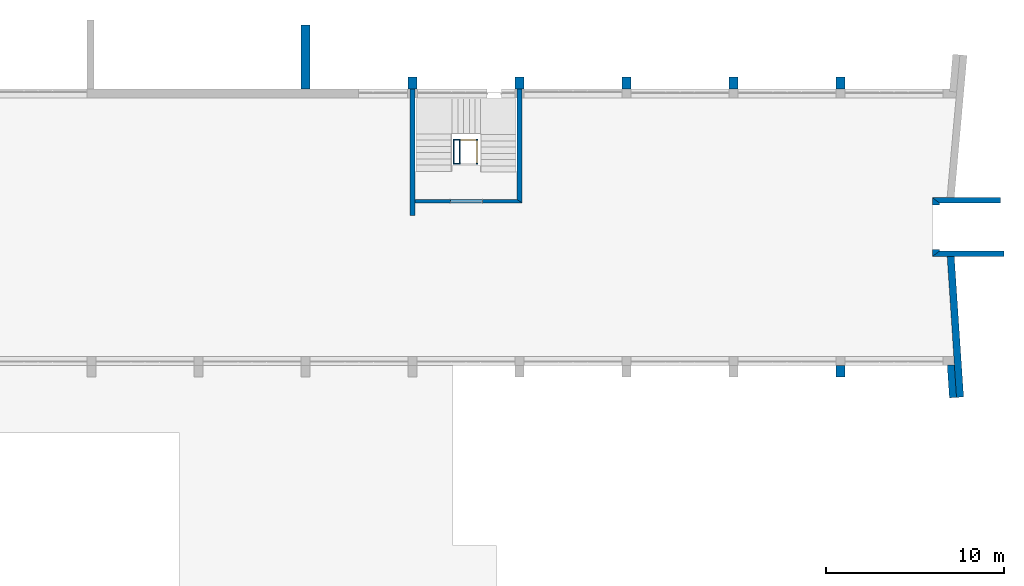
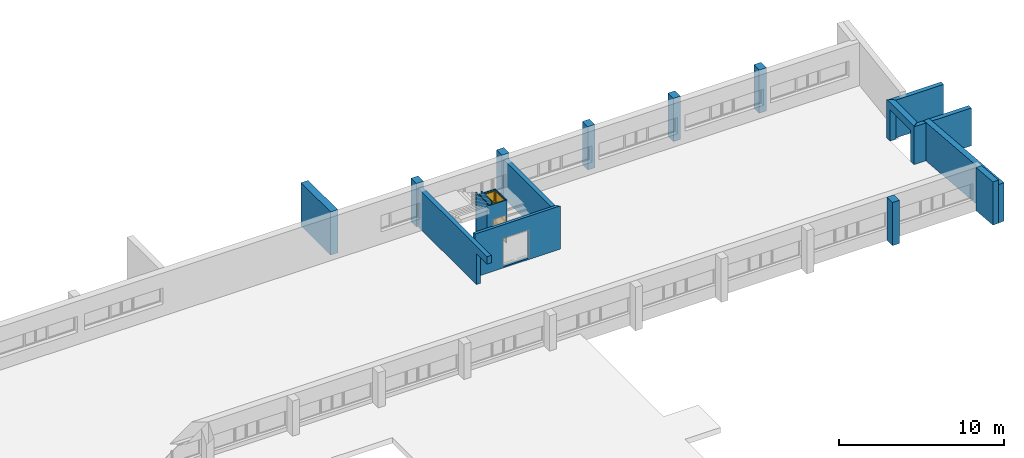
# One storey, part 5 of 10: 20 walls, 2 windows, 7 openings.
"""IFC2X3 building model written with IfcOpenShell, lengths in millimetres."""

from ifc_helpers import new_model, entity, si_unit, converted_unit, money_unit, direction, frame, origin_with_axes, place, context, subcontext, project, spatial, polyline, outline, extrude, open_shell, faceted_brep, surface_model, source, transform, mapped, material, material_list, layer, layer_set, layer_usage, type_object, element, fill, save


model = new_model("IFC2X3")

# Units and contexts
model_context = context("Model", 3, precision=1e-05, world=origin_with_axes(), true_north=direction((0.0, 1.0)))
body_context = subcontext(model_context, "Body", "Model", "MODEL_VIEW")
ifc_project = project(units=[si_unit("LENGTHUNIT", "METRE", prefix="MILLI"), si_unit("AREAUNIT", "SQUARE_METRE"), si_unit("VOLUMEUNIT", "CUBIC_METRE"), converted_unit("PLANEANGLEUNIT", "DEGREE", entity("IfcPlaneAngleMeasure", 0.0174532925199), si_unit("PLANEANGLEUNIT", "RADIAN"), dimensions=[0, 0, 0, 0, 0, 0, 0]), si_unit("SOLIDANGLEUNIT", "STERADIAN"), money_unit("USD"), converted_unit("TIMEUNIT", "Year", entity("IfcTimeMeasure", 31556926.0), si_unit("TIMEUNIT", "SECOND"), dimensions=[0, 0, 0, 0, 0, 0, 0]), si_unit("MASSUNIT", "GRAM"), si_unit("THERMODYNAMICTEMPERATUREUNIT", "DEGREE_CELSIUS"), si_unit("LUMINOUSINTENSITYUNIT", "LUMEN")], contexts=[model_context])

# Site, building, storey
site_placement = place(None, origin_with_axes())
site = spatial("IfcSite", under=ifc_project, at=site_placement, Name="Site", CompositionType="ELEMENT")
building_placement = place(site_placement, origin_with_axes())
building = spatial("IfcBuilding", under=site, at=building_placement, Name="Building", CompositionType="ELEMENT")
storey_placement = place(building_placement, origin_with_axes())
storey = spatial("IfcBuildingStorey", under=building, at=storey_placement, Name="2KORRUS", CompositionType="ELEMENT", Elevation=0.0)

# Wall
ifc_material_1 = material(Name="Olemasolevad seinad tellis, uus viimistlus")
ifc_layer_1 = layer(ifc_material_1, 400.0, ventilated="UNKNOWN")
ifc_layer_set_1 = layer_set([ifc_layer_1], Name="Olemasolevad seinad tellis, uus viimistlus 400")
ifc_layer_usage_1 = layer_usage(ifc_layer_set_1, "AXIS2", "POSITIVE", -400.0)
wall_type_1 = type_object("IfcWallType", Name="Olemasolevad seinad tellis, uus viimistlus 400", PredefinedType="NOTDEFINED")
wall_1_placement = place(storey_placement, frame((18229.2485928, -13787.3375674, 0.0), z_axis=(0.0, 0.0, 1.0), x_axis=(0.0663534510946, -0.997796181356, 0.0)))
element("IfcWallStandardCase", 1, at=wall_1_placement, inside=storey, type_object=wall_type_1, material=ifc_layer_usage_1, Name="vs1", ObjectType="vs1", context=body_context, shape_type="SweptSolid", body=[
    extrude(outline(polyline([(0.0, -400.0), (8146.79169702, -400.0), (8146.79169702, 0.0), (0.0, 0.0), (0.0, -400.0)])), origin_with_axes(), (0.0, 0.0, 1.0), 2850.0),
])

# Wall, opening
ifc_layer_usage_2 = layer_usage(ifc_layer_set_1, "AXIS2", "POSITIVE", 0.0)
wall_2_placement = place(storey_placement, frame((17015.1799697, -11039.6041088, 0.0), z_axis=(0.0, 0.0, 1.0), x_axis=(0.0, -1.0, 0.0)))
wall_2 = element("IfcWallStandardCase", 2, at=wall_2_placement, inside=storey, type_object=wall_type_1, material=ifc_layer_usage_2, Name="ks1", ObjectType="ks1", context=body_context, shape_type="SweptSolid", body=[
    extrude(outline(polyline([(-300.0, 0.0), (2999.6357906, 0.0), (2699.6357906, 400.0), (0.0, 400.0), (-300.0, 0.0)])), origin_with_axes(), (0.0, 0.0, 1.0), 2850.0),
])
opening_1_placement = place(wall_2_placement, frame((1349.63579061, 0.0, 0.0), z_axis=(0.0, 0.0, 1.0), x_axis=(1.0, 0.0, 0.0)))
element("IfcOpeningElement", 3, at=opening_1_placement, cuts=wall_2, Name="DOO - 001", context=body_context, shape_type="SweptSolid", body=[
    extrude(outline(polyline([(-1250.0, 0.0), (-1250.0, -2300.0), (1250.0, -2300.0), (1250.0, 0.0), (-1250.0, 0.0)])), frame((0.0, 300.0, 0.0), z_axis=(0.0, 1.0, 0.0), x_axis=(1.0, 0.0, 0.0)), (0.0, 0.0, 1.0), 400.0),
    extrude(outline(polyline([(-1250.0, 2300.0), (-1250.0, 0.0), (1250.0, 0.0), (1250.0, 2300.0), (-1250.0, 2300.0)])), frame((0.0, 300.0, 0.0), z_axis=(0.0, -1.0, 0.0), x_axis=(1.0, 0.0, 0.0)), (0.0, 0.0, 1.0), 400.0),
])

# Walls
ifc_layer_usage_3 = layer_usage(ifc_layer_set_1, "AXIS2", "POSITIVE", 0.0)
wall_3_placement = place(storey_placement, frame((17849.9226967, -20139.2398994, 0.0), z_axis=(0.0, 0.0, 1.0), x_axis=(0.0663534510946, -0.997796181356, 0.0)))
element("IfcWallStandardCase", 4, at=wall_3_placement, inside=storey, type_object=wall_type_1, material=ifc_layer_usage_3, Name="vs1", ObjectType="vs1", context=body_context, shape_type="SweptSolid", body=[
    extrude(outline(polyline([(0.0, 0.0), (1833.833538, 0.0), (1833.833538, 400.0), (0.0, 400.0), (0.0, 0.0)])), origin_with_axes(), (0.0, 0.0, 1.0), 3200.0),
])
ifc_layer_2 = layer(ifc_material_1, 300.0, ventilated="UNKNOWN")
ifc_layer_set_2 = layer_set([ifc_layer_2], Name="Olemasolevad seinad tellis, uus viimistlus 300")
ifc_layer_usage_4 = layer_usage(ifc_layer_set_2, "AXIS2", "POSITIVE", 0.0)
wall_type_2 = type_object("IfcWallType", Name="Olemasolevad seinad tellis, uus viimistlus 300", PredefinedType="NOTDEFINED")
wall_4_placement = place(storey_placement, frame((21034.0851697, -13739.2398994, 0.0), z_axis=(0.0, 0.0, 1.0), x_axis=(-1.0, 0.0, 0.0)))
element("IfcWallStandardCase", 5, at=wall_4_placement, inside=storey, type_object=wall_type_2, material=ifc_layer_usage_4, Name="ks1", ObjectType="ks1", context=body_context, shape_type="SweptSolid", body=[
    extrude(outline(polyline([(0.0, 0.0), (3618.9052, 0.0), (4018.9052, 300.0), (0.0, 300.0), (0.0, 0.0)])), origin_with_axes(), (0.0, 0.0, 1.0), 2800.0),
])

# Wall, opening
ifc_layer_usage_5 = layer_usage(ifc_layer_set_2, "AXIS2", "POSITIVE", 0.0)
wall_5_placement = place(storey_placement, frame((-11990.2967033, -13039.2398994, 0.0), z_axis=(0.0, 0.0, 1.0), x_axis=(0.0, 1.0, 0.0)))
wall_5 = element("IfcWallStandardCase", 6, at=wall_5_placement, inside=storey, type_object=wall_type_2, material=ifc_layer_usage_5, Name="ks1", ObjectType="ks1", context=body_context, shape_type="SweptSolid", body=[
    extrude(outline(polyline([(0.0, 0.0), (8399.63579061, 0.0), (8399.63579061, 300.0), (0.0, 300.0), (0.0, 0.0)])), origin_with_axes(), (0.0, 0.0, 1.0), 2850.0),
])
opening_2_placement = place(wall_5_placement, frame((650.0, 0.0, 0.0), z_axis=(0.0, 0.0, 1.0), x_axis=(1.0, 0.0, 0.0)))
element("IfcOpeningElement", 7, at=opening_2_placement, cuts=wall_5, Name="DOO - 001", context=body_context, shape_type="SweptSolid", body=[
    extrude(outline(polyline([(-650.0, 2300.0), (-650.0, 0.0), (650.0, 0.0), (650.0, 2300.0), (-650.0, 2300.0)])), frame((0.0, 0.0, 0.0), z_axis=(0.0, -1.0, 0.0), x_axis=(1.0, 0.0, 0.0)), (0.0, 0.0, 1.0), 300.0),
    extrude(outline(polyline([(-650.0, 0.0), (-650.0, -2300.0), (650.0, -2300.0), (650.0, 0.0), (-650.0, 0.0)])), frame((0.0, 0.0, 0.0), z_axis=(0.0, 1.0, 0.0), x_axis=(1.0, 0.0, 0.0)), (0.0, 0.0, 1.0), 300.0),
])

# Walls
ifc_layer_usage_6 = layer_usage(ifc_layer_set_2, "AXIS2", "POSITIVE", 0.0)
wall_6_placement = place(storey_placement, frame((-5990.29670331, -11039.6041088, 0.0), z_axis=(0.0, 0.0, 1.0), x_axis=(0.0, 1.0, 0.0)))
element("IfcWallStandardCase", 8, at=wall_6_placement, inside=storey, type_object=wall_type_2, material=ifc_layer_usage_6, Name="ks1", ObjectType="ks1", context=body_context, shape_type="SweptSolid", body=[
    extrude(outline(polyline([(0.0, 0.0), (6400.0, 0.0), (6400.0, 300.0), (200.0, 300.0), (0.0, 0.0)])), origin_with_axes(), (0.0, 0.0, 1.0), 2850.0),
])
ifc_layer_usage_7 = layer_usage(ifc_layer_set_2, "AXIS2", "POSITIVE", -300.0)
wall_7_placement = place(storey_placement, frame((20826.9209515, -11039.6041088, 0.0), z_axis=(0.0, 0.0, 1.0), x_axis=(-1.0, 0.0, 0.0)))
element("IfcWallStandardCase", 9, at=wall_7_placement, inside=storey, type_object=wall_type_2, material=ifc_layer_usage_7, Name="ks1", ObjectType="ks1", context=body_context, shape_type="SweptSolid", body=[
    extrude(outline(polyline([(0.0, -300.0), (3811.7409818, -300.0), (3411.7409818, 0.0), (0.0, 0.0), (0.0, -300.0)])), origin_with_axes(), (0.0, 0.0, 1.0), 2800.0),
])
ifc_layer_3 = layer(ifc_material_1, 500.0, ventilated="UNKNOWN")
ifc_layer_set_3 = layer_set([ifc_layer_3], Name="Olemasolevad seinad tellis, uus viimistlus 500")
ifc_layer_usage_8 = layer_usage(ifc_layer_set_3, "AXIS2", "POSITIVE", -100.0)
wall_type_3 = type_object("IfcWallType", Name="Olemasolevad seinad tellis, uus viimistlus 500", PredefinedType="NOTDEFINED")
wall_8_placement = place(storey_placement, frame((12009.7032967, -20796.6419407, 0.0), z_axis=(0.0, 0.0, 1.0), x_axis=(0.0, 1.0, 0.0)))
element("IfcWallStandardCase", 10, at=wall_8_placement, inside=storey, type_object=wall_type_3, material=ifc_layer_usage_8, Name="vs1", ObjectType="vs1", context=body_context, shape_type="SweptSolid", body=[
    extrude(outline(polyline([(0.0, -100.0), (657.4020413, -100.0), (657.4020413, 400.0), (0.0, 400.0), (0.0, -100.0)])), origin_with_axes(), (0.0, 0.0, 1.0), 3200.0),
])
ifc_layer_usage_9 = layer_usage(ifc_layer_set_3, "AXIS2", "POSITIVE", -100.0)
wall_9_placement = place(storey_placement, frame((12009.7032967, -5039.6041088, 0.0), z_axis=(0.0, 0.0, 1.0), x_axis=(0.0, 1.0, 0.0)))
element("IfcWallStandardCase", 11, at=wall_9_placement, inside=storey, type_object=wall_type_3, material=ifc_layer_usage_9, Name="vs1", ObjectType="vs1", context=body_context, shape_type="SweptSolid", body=[
    extrude(outline(polyline([(400.0, -100.0), (1057.40204125, -100.0), (1057.40204125, 400.0), (400.0, 400.0), (400.0, -100.0)])), origin_with_axes(), (0.0, 0.0, 1.0), 3200.0),
])
ifc_layer_usage_10 = layer_usage(ifc_layer_set_3, "AXIS2", "POSITIVE", 0.0)
wall_10_placement = place(storey_placement, frame((-17890.2967033, -5039.6041088, 0.0), z_axis=(0.0, 0.0, 1.0), x_axis=(0.0, 1.0, 0.0)))
element("IfcWallStandardCase", 12, at=wall_10_placement, inside=storey, type_object=wall_type_3, material=ifc_layer_usage_10, Name="vs1", ObjectType="vs1", context=body_context, shape_type="SweptSolid", body=[
    extrude(outline(polyline([(400.0, 0.0), (3973.10270624, 0.0), (3973.10270624, 500.0), (400.0, 500.0), (400.0, 0.0)])), origin_with_axes(), (0.0, 0.0, 1.0), 3200.0),
])
ifc_layer_usage_11 = layer_usage(ifc_layer_set_3, "AXIS2", "POSITIVE", -100.0)
wall_11_placement = place(storey_placement, frame((-11990.2967033, -5039.6041088, 0.0), z_axis=(0.0, 0.0, 1.0), x_axis=(0.0, 1.0, 0.0)))
element("IfcWallStandardCase", 13, at=wall_11_placement, inside=storey, type_object=wall_type_3, material=ifc_layer_usage_11, Name="vs1", ObjectType="vs1", context=body_context, shape_type="SweptSolid", body=[
    extrude(outline(polyline([(400.0, -100.0), (1057.40204125, -100.0), (1057.40204125, 400.0), (400.0, 400.0), (400.0, -100.0)])), origin_with_axes(), (0.0, 0.0, 1.0), 3200.0),
])
ifc_layer_usage_12 = layer_usage(ifc_layer_set_3, "AXIS2", "POSITIVE", -100.0)
wall_12_placement = place(storey_placement, frame((-5990.29670331, -5039.6041088, 0.0), z_axis=(0.0, 0.0, 1.0), x_axis=(0.0, 1.0, 0.0)))
element("IfcWallStandardCase", 14, at=wall_12_placement, inside=storey, type_object=wall_type_3, material=ifc_layer_usage_12, Name="vs1", ObjectType="vs1", context=body_context, shape_type="SweptSolid", body=[
    extrude(outline(polyline([(400.0, -100.0), (1057.40204125, -100.0), (1057.40204125, 400.0), (400.0, 400.0), (400.0, -100.0)])), origin_with_axes(), (0.0, 0.0, 1.0), 3200.0),
])
ifc_layer_usage_13 = layer_usage(ifc_layer_set_3, "AXIS2", "POSITIVE", -100.0)
wall_13_placement = place(storey_placement, frame((9.70329668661, -5039.6041088, 0.0), z_axis=(0.0, 0.0, 1.0), x_axis=(0.0, 1.0, 0.0)))
element("IfcWallStandardCase", 15, at=wall_13_placement, inside=storey, type_object=wall_type_3, material=ifc_layer_usage_13, Name="vs1", ObjectType="vs1", context=body_context, shape_type="SweptSolid", body=[
    extrude(outline(polyline([(400.0, -100.0), (1057.40204125, -100.0), (1057.40204125, 400.0), (400.0, 400.0), (400.0, -100.0)])), origin_with_axes(), (0.0, 0.0, 1.0), 3200.0),
])
ifc_layer_usage_14 = layer_usage(ifc_layer_set_3, "AXIS2", "POSITIVE", -100.0)
wall_14_placement = place(storey_placement, frame((6009.70329669, -5039.6041088, 0.0), z_axis=(0.0, 0.0, 1.0), x_axis=(0.0, 1.0, 0.0)))
element("IfcWallStandardCase", 16, at=wall_14_placement, inside=storey, type_object=wall_type_3, material=ifc_layer_usage_14, Name="vs1", ObjectType="vs1", context=body_context, shape_type="SweptSolid", body=[
    extrude(outline(polyline([(400.0, -100.0), (1057.40204125, -100.0), (1057.40204125, 400.0), (400.0, 400.0), (400.0, -100.0)])), origin_with_axes(), (0.0, 0.0, 1.0), 3200.0),
])
ifc_material_2 = material(Name="Terasprofiil")
ifc_layer_4 = layer(ifc_material_2, 60.0, ventilated="UNKNOWN")
ifc_layer_set_4 = layer_set([ifc_layer_4], Name="Terasprofiil 60")
ifc_layer_usage_15 = layer_usage(ifc_layer_set_4, "AXIS2", "POSITIVE", -60.0)
wall_type_4 = type_object("IfcWallType", Name="Terasprofiil 60", PredefinedType="NOTDEFINED")
wall_15_placement = place(storey_placement, frame((-9469.40654634, -7470.64352695, 0.0), z_axis=(0.0, 0.0, 1.0), x_axis=(0.0, -1.0, 0.0)))
element("IfcWallStandardCase", 17, at=wall_15_placement, inside=storey, type_object=wall_type_4, material=ifc_layer_usage_15, Name="Lifti sein", ObjectType="Lifti sein", context=body_context, shape_type="SweptSolid", body=[
    extrude(outline(polyline([(60.0, -60.0), (1340.0, -60.0), (1340.0, 0.0), (60.0, 0.0), (60.0, -60.0)])), origin_with_axes(), (0.0, 0.0, 1.0), 3400.0),
])

# Wall, opening, window
ifc_layer_usage_16 = layer_usage(ifc_layer_set_4, "AXIS2", "POSITIVE", -60.0)
wall_16_placement = place(storey_placement, frame((-8491.93119318, -7470.64352695, 0.0), z_axis=(0.0, 0.0, 1.0), x_axis=(0.0, -1.0, 0.0)))
wall_16 = element("IfcWallStandardCase", 18, at=wall_16_placement, inside=storey, type_object=wall_type_4, material=ifc_layer_usage_16, Name="LS1", ObjectType="Lifti sein", context=body_context, shape_type="SweptSolid", body=[
    extrude(outline(polyline([(0.0, -60.0), (1400.0, -60.0), (1400.0, 0.0), (0.0, 0.0), (0.0, -60.0)])), origin_with_axes(), (0.0, 0.0, 1.0), 3200.0),
])
opening_3_placement = place(wall_16_placement, frame((700.0, 0.0, 0.0), z_axis=(0.0, 0.0, 1.0), x_axis=(1.0, 0.0, 0.0)))
opening_3 = element("IfcOpeningElement", 19, at=opening_3_placement, cuts=wall_16, Name="Lifti klaassein", context=body_context, shape_type="SweptSolid", body=[
    extrude(outline(polyline([(640.0, -3100.0), (640.0, 0.0), (-640.0, 0.0), (-640.0, -3100.0), (640.0, -3100.0)])), frame((0.0, -60.0, 0.0), z_axis=(0.0, 1.0, 0.0), x_axis=(1.0, 0.0, 0.0)), (0.0, 0.0, 1.0), 180.0),
])
ifc_material_3 = material(Name="Background")
ifc_material_list = material_list([ifc_material_3])
window_style = type_object("IfcWindowStyle", Name="Vertical Multi-Sash Window 19", ConstructionType="NOTDEFINED", OperationType="USERDEFINED", ParameterTakesPrecedence=False, Sizeable=False)
shared_shape_1 = source(origin_with_axes(), body_context, "Body", "SurfaceModel", [
    faceted_brep([(590.0, -50.0, 3050.0), (640.0, -50.0, 3050.0), (640.0, 0.0, 3050.0), (590.0, 0.0, 3050.0), (590.0, -50.0, 2375.0), (590.0, -50.0, 2275.0), (590.0, -50.0, 1600.0), (590.0, -50.0, 1500.0), (590.0, -50.0, 825.0), (590.0, -50.0, 725.0), (590.0, -50.0, 50.0), (640.0, -50.0, 50.0), (640.0, 0.0, 50.0), (590.0, 0.0, 50.0), (590.0, 0.0, 725.0), (590.0, 0.0, 825.0), (590.0, 0.0, 1500.0), (590.0, 0.0, 1600.0), (590.0, 0.0, 2275.0), (590.0, 0.0, 2375.0)], [[[0, 1, 2, 3]], [[0, 4, 5, 6, 7, 8, 9, 10, 11, 1]], [[1, 11, 12, 2]], [[3, 2, 12, 13, 14, 15, 16, 17, 18, 19]], [[4, 0, 3, 19]], [[5, 4, 19, 18]], [[6, 5, 18, 17]], [[7, 6, 17, 16]], [[8, 7, 16, 15]], [[9, 8, 15, 14]], [[10, 9, 14, 13]], [[11, 10, 13, 12]]]),
    faceted_brep([(-590.0, -50.0, 2375.0), (-590.0, -50.0, 2275.0), (-590.0, 0.0, 2275.0), (-590.0, 0.0, 2375.0), (-590.0, -50.0, 3050.0), (-640.0, -50.0, 3050.0), (-640.0, -50.0, 50.0), (-590.0, -50.0, 50.0), (-590.0, -50.0, 725.0), (-590.0, -50.0, 825.0), (-590.0, -50.0, 1500.0), (-590.0, -50.0, 1600.0), (-590.0, 0.0, 1600.0), (-590.0, 0.0, 1500.0), (-590.0, 0.0, 825.0), (-590.0, 0.0, 725.0), (-590.0, 0.0, 50.0), (-640.0, 0.0, 50.0), (-640.0, 0.0, 3050.0), (-590.0, 0.0, 3050.0)], [[[0, 1, 2, 3]], [[0, 4, 5, 6, 7, 8, 9, 10, 11, 1]], [[1, 11, 12, 2]], [[3, 2, 12, 13, 14, 15, 16, 17, 18, 19]], [[4, 0, 3, 19]], [[5, 4, 19, 18]], [[6, 5, 18, 17]], [[7, 6, 17, 16]], [[8, 7, 16, 15]], [[9, 8, 15, 14]], [[10, 9, 14, 13]], [[11, 10, 13, 12]]]),
    faceted_brep([(-590.0, -50.0, 3050.0), (-640.0, -50.0, 3050.0), (-640.0, 0.0, 3050.0), (-590.0, 0.0, 3050.0), (590.0, -50.0, 3050.0), (640.0, -50.0, 3050.0), (640.0, -50.0, 3100.0), (-640.0, -50.0, 3100.0), (-640.0, 0.0, 3100.0), (640.0, 0.0, 3100.0), (640.0, 0.0, 3050.0), (590.0, 0.0, 3050.0)], [[[0, 1, 2, 3]], [[0, 4, 5, 6, 7, 1]], [[1, 7, 8, 2]], [[3, 2, 8, 9, 10, 11]], [[4, 0, 3, 11]], [[5, 4, 11, 10]], [[6, 5, 10, 9]], [[7, 6, 9, 8]]]),
    faceted_brep([(590.0, -50.0, 50.0), (640.0, -50.0, 50.0), (640.0, 0.0, 50.0), (590.0, 0.0, 50.0), (-590.0, -50.0, 50.0), (-640.0, -50.0, 50.0), (-640.0, -50.0, 0.0), (640.0, -50.0, 0.0), (640.0, 0.0, 0.0), (-640.0, 0.0, 0.0), (-640.0, 0.0, 50.0), (-590.0, 0.0, 50.0)], [[[0, 1, 2, 3]], [[0, 4, 5, 6, 7, 1]], [[1, 7, 8, 2]], [[3, 2, 8, 9, 10, 11]], [[4, 0, 3, 11]], [[5, 4, 11, 10]], [[6, 5, 10, 9]], [[7, 6, 9, 8]]]),
    faceted_brep([(-590.0, -50.0, 825.0), (590.0, -50.0, 825.0), (590.0, 0.0, 825.0), (-590.0, 0.0, 825.0), (-590.0, -50.0, 725.0), (590.0, -50.0, 725.0), (590.0, 0.0, 725.0), (-590.0, 0.0, 725.0)], [[[0, 1, 2, 3]], [[0, 4, 5, 1]], [[1, 5, 6, 2]], [[3, 2, 6, 7]], [[4, 0, 3, 7]], [[5, 4, 7, 6]]]),
    faceted_brep([(-590.0, -50.0, 1600.0), (590.0, -50.0, 1600.0), (590.0, 0.0, 1600.0), (-590.0, 0.0, 1600.0), (-590.0, -50.0, 1500.0), (590.0, -50.0, 1500.0), (590.0, 0.0, 1500.0), (-590.0, 0.0, 1500.0)], [[[0, 1, 2, 3]], [[0, 4, 5, 1]], [[1, 5, 6, 2]], [[3, 2, 6, 7]], [[4, 0, 3, 7]], [[5, 4, 7, 6]]]),
    faceted_brep([(-590.0, -50.0, 2375.0), (590.0, -50.0, 2375.0), (590.0, 0.0, 2375.0), (-590.0, 0.0, 2375.0), (-590.0, -50.0, 2275.0), (590.0, -50.0, 2275.0), (590.0, 0.0, 2275.0), (-590.0, 0.0, 2275.0)], [[[0, 1, 2, 3]], [[0, 4, 5, 1]], [[1, 5, 6, 2]], [[3, 2, 6, 7]], [[4, 0, 3, 7]], [[5, 4, 7, 6]]]),
    surface_model("IfcShellBasedSurfaceModel", [(590.0, -35.0, 50.0), (590.0, -35.0, 725.0), (-590.0, -35.0, 725.0), (-590.0, -35.0, 50.0)], [open_shell([[[0, 1, 2, 3]]])]),
    surface_model("IfcShellBasedSurfaceModel", [(590.0, -15.0, 50.0), (-590.0, -15.0, 50.0), (-590.0, -15.0, 725.0), (590.0, -15.0, 725.0)], [open_shell([[[0, 1, 2, 3]]])]),
    surface_model("IfcShellBasedSurfaceModel", [(590.0, -35.0, 825.0), (590.0, -35.0, 1500.0), (-590.0, -35.0, 1500.0), (-590.0, -35.0, 825.0)], [open_shell([[[0, 1, 2, 3]]])]),
    surface_model("IfcShellBasedSurfaceModel", [(590.0, -15.0, 825.0), (-590.0, -15.0, 825.0), (-590.0, -15.0, 1500.0), (590.0, -15.0, 1500.0)], [open_shell([[[0, 1, 2, 3]]])]),
    surface_model("IfcShellBasedSurfaceModel", [(590.0, -35.0, 1600.0), (590.0, -35.0, 2275.0), (-590.0, -35.0, 2275.0), (-590.0, -35.0, 1600.0)], [open_shell([[[0, 1, 2, 3]]])]),
    surface_model("IfcShellBasedSurfaceModel", [(590.0, -15.0, 1600.0), (-590.0, -15.0, 1600.0), (-590.0, -15.0, 2275.0), (590.0, -15.0, 2275.0)], [open_shell([[[0, 1, 2, 3]]])]),
    surface_model("IfcShellBasedSurfaceModel", [(590.0, -35.0, 2375.0), (590.0, -35.0, 3050.0), (-590.0, -35.0, 3050.0), (-590.0, -35.0, 2375.0)], [open_shell([[[0, 1, 2, 3]]])]),
    surface_model("IfcShellBasedSurfaceModel", [(590.0, -15.0, 2375.0), (-590.0, -15.0, 2375.0), (-590.0, -15.0, 3050.0), (590.0, -15.0, 3050.0)], [open_shell([[[0, 1, 2, 3]]])]),
])
window_1_placement = place(opening_3_placement, frame((-640.0, 0.0, 0.0), z_axis=(0.0, 0.0, 1.0), x_axis=(1.0, 0.0, 0.0)))
window_1 = element("IfcWindow", 20, at=window_1_placement, inside=storey, type_object=window_style, material=ifc_material_list, Name="Lifti klaassein", ObjectType="WINDOW", OverallHeight=3100.0, OverallWidth=1280.0, context=body_context, shape_type="MappedRepresentation", body=[
    mapped(shared_shape_1, transform((640.0, 0.0, 0.0))),
])
fill(opening_3, window_1)

# Wall
ifc_layer_usage_17 = layer_usage(ifc_layer_set_4, "AXIS2", "POSITIVE", 0.0)
wall_17_placement = place(storey_placement, frame((-9869.40654634, -7470.64352695, 0.0), z_axis=(0.0, 0.0, 1.0), x_axis=(0.0, -1.0, 0.0)))
element("IfcWallStandardCase", 21, at=wall_17_placement, inside=storey, type_object=wall_type_4, material=ifc_layer_usage_17, Name="Lifti sein", ObjectType="Lifti sein", context=body_context, shape_type="SweptSolid", body=[
    extrude(outline(polyline([(0.0, 0.0), (1400.0, 0.0), (1400.0, 60.0), (0.0, 60.0), (0.0, 0.0)])), origin_with_axes(), (0.0, 0.0, 1.0), 3400.0),
])

# Wall, opening
ifc_layer_usage_18 = layer_usage(ifc_layer_set_4, "AXIS2", "POSITIVE", -60.0)
wall_18_placement = place(storey_placement, frame((-8491.93119318, -8870.64352695, 0.0), z_axis=(0.0, 0.0, 1.0), x_axis=(-1.0, 0.0, 0.0)))
wall_18 = element("IfcWallStandardCase", 22, at=wall_18_placement, inside=storey, type_object=wall_type_4, material=ifc_layer_usage_18, Name="LS1", ObjectType="Lifti sein", context=body_context, shape_type="SweptSolid", body=[
    extrude(outline(polyline([(0.0, -60.0), (1377.47535316, -60.0), (1377.47535316, 0.0), (0.0, 0.0), (0.0, -60.0)])), origin_with_axes(), (0.0, 0.0, 1.0), 3200.0),
])
opening_4_placement = place(wall_18_placement, frame((512.692164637, 0.0, 0.0), z_axis=(0.0, 0.0, 1.0), x_axis=(1.0, 0.0, 0.0)))
element("IfcOpeningElement", 23, at=opening_4_placement, cuts=wall_18, Name="Liftiuks", context=body_context, shape_type="SweptSolid", body=[
    extrude(outline(polyline([(-450.0, -2100.0), (450.0, -2100.0), (450.0, 0.0), (-450.0, 0.0), (-450.0, -2100.0)])), frame((0.0, -60.0, 0.0), z_axis=(0.0, 1.0, 0.0), x_axis=(1.0, 0.0, 0.0)), (0.0, 0.0, 1.0), 180.0),
    extrude(outline(polyline([(-487.0, 2137.0), (-487.0, 0.0), (487.0, 0.0), (487.0, 2137.0), (-487.0, 2137.0)])), frame((0.0, -60.0, 0.0), z_axis=(0.0, -1.0, 0.0), x_axis=(1.0, 0.0, 0.0)), (0.0, 0.0, 1.0), 60.0),
    extrude(outline(polyline([(-487.0, 0.0), (-487.0, -2137.0), (487.0, -2137.0), (487.0, 0.0), (-487.0, 0.0)])), frame((0.0, 0.0, 0.0), z_axis=(0.0, 1.0, 0.0), x_axis=(1.0, 0.0, 0.0)), (0.0, 0.0, 1.0), 60.0),
])

# Wall, opening, window
ifc_layer_usage_19 = layer_usage(ifc_layer_set_4, "AXIS2", "POSITIVE", 0.0)
wall_19_placement = place(storey_placement, frame((-8491.93119318, -7470.64352695, 0.0), z_axis=(0.0, 0.0, 1.0), x_axis=(-1.0, 0.0, 0.0)))
wall_19 = element("IfcWallStandardCase", 24, at=wall_19_placement, inside=storey, type_object=wall_type_4, material=ifc_layer_usage_19, Name="LS1", ObjectType="Lifti sein", context=body_context, shape_type="SweptSolid", body=[
    extrude(outline(polyline([(0.0, 0.0), (1377.47535316, 0.0), (1377.47535316, 60.0), (0.0, 60.0), (0.0, 0.0)])), origin_with_axes(), (0.0, 0.0, 1.0), 3200.0),
])
opening_5_placement = place(wall_19_placement, frame((518.737676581, 0.0, 0.0), z_axis=(0.0, 0.0, 1.0), x_axis=(1.0, 0.0, 0.0)))
opening_5 = element("IfcOpeningElement", 25, at=opening_5_placement, cuts=wall_19, Name="Lifti klaassein", context=body_context, shape_type="SweptSolid", body=[
    extrude(outline(polyline([(-450.0, 0.0), (450.0, 0.0), (450.0, 3100.0), (-450.0, 3100.0), (-450.0, 0.0)])), frame((0.0, -60.0, 0.0), z_axis=(0.0, 1.0, 0.0), x_axis=(-1.0, 0.0, 0.0)), (0.0, 0.0, 1.0), 180.0),
])
shared_shape_2 = source(origin_with_axes(), body_context, "Body", "SurfaceModel", [
    faceted_brep([(-400.0, -60.0, 3050.0), (-400.0, -10.0, 3050.0), (-450.0, -10.0, 3050.0), (-450.0, -60.0, 3050.0), (-400.0, -60.0, 2375.0), (-400.0, -10.0, 2375.0), (-400.0, -10.0, 2275.0), (-400.0, -10.0, 1600.0), (-400.0, -10.0, 1500.0), (-400.0, -10.0, 825.0), (-400.0, -10.0, 725.0), (-400.0, -10.0, 50.0), (-450.0, -10.0, 50.0), (-450.0, -60.0, 50.0), (-400.0, -60.0, 50.0), (-400.0, -60.0, 725.0), (-400.0, -60.0, 825.0), (-400.0, -60.0, 1500.0), (-400.0, -60.0, 1600.0), (-400.0, -60.0, 2275.0)], [[[0, 1, 2, 3]], [[4, 5, 1, 0]], [[1, 5, 6, 7, 8, 9, 10, 11, 12, 2]], [[3, 2, 12, 13]], [[0, 3, 13, 14, 15, 16, 17, 18, 19, 4]], [[19, 6, 5, 4]], [[18, 7, 6, 19]], [[17, 8, 7, 18]], [[16, 9, 8, 17]], [[15, 10, 9, 16]], [[14, 11, 10, 15]], [[13, 12, 11, 14]]]),
    faceted_brep([(400.0, -60.0, 2375.0), (400.0, -10.0, 2375.0), (400.0, -10.0, 2275.0), (400.0, -60.0, 2275.0), (400.0, -60.0, 3050.0), (400.0, -10.0, 3050.0), (450.0, -10.0, 3050.0), (450.0, -10.0, 50.0), (400.0, -10.0, 50.0), (400.0, -10.0, 725.0), (400.0, -10.0, 825.0), (400.0, -10.0, 1500.0), (400.0, -10.0, 1600.0), (400.0, -60.0, 1600.0), (400.0, -60.0, 1500.0), (400.0, -60.0, 825.0), (400.0, -60.0, 725.0), (400.0, -60.0, 50.0), (450.0, -60.0, 50.0), (450.0, -60.0, 3050.0)], [[[0, 1, 2, 3]], [[4, 5, 1, 0]], [[1, 5, 6, 7, 8, 9, 10, 11, 12, 2]], [[3, 2, 12, 13]], [[0, 3, 13, 14, 15, 16, 17, 18, 19, 4]], [[19, 6, 5, 4]], [[18, 7, 6, 19]], [[17, 8, 7, 18]], [[16, 9, 8, 17]], [[15, 10, 9, 16]], [[14, 11, 10, 15]], [[13, 12, 11, 14]]]),
    faceted_brep([(400.0, -60.0, 3050.0), (400.0, -10.0, 3050.0), (450.0, -10.0, 3050.0), (450.0, -60.0, 3050.0), (-400.0, -60.0, 3050.0), (-400.0, -10.0, 3050.0), (-450.0, -10.0, 3050.0), (-450.0, -10.0, 3100.0), (450.0, -10.0, 3100.0), (450.0, -60.0, 3100.0), (-450.0, -60.0, 3100.0), (-450.0, -60.0, 3050.0)], [[[0, 1, 2, 3]], [[4, 5, 1, 0]], [[1, 5, 6, 7, 8, 2]], [[3, 2, 8, 9]], [[0, 3, 9, 10, 11, 4]], [[11, 6, 5, 4]], [[10, 7, 6, 11]], [[9, 8, 7, 10]]]),
    faceted_brep([(-400.0, -60.0, 50.0), (-400.0, -10.0, 50.0), (-450.0, -10.0, 50.0), (-450.0, -60.0, 50.0), (400.0, -60.0, 50.0), (400.0, -10.0, 50.0), (450.0, -10.0, 50.0), (450.0, -10.0, 0.0), (-450.0, -10.0, 0.0), (-450.0, -60.0, 0.0), (450.0, -60.0, 0.0), (450.0, -60.0, 50.0)], [[[0, 1, 2, 3]], [[4, 5, 1, 0]], [[1, 5, 6, 7, 8, 2]], [[3, 2, 8, 9]], [[0, 3, 9, 10, 11, 4]], [[11, 6, 5, 4]], [[10, 7, 6, 11]], [[9, 8, 7, 10]]]),
    faceted_brep([(400.0, -60.0, 825.0), (400.0, -10.0, 825.0), (-400.0, -10.0, 825.0), (-400.0, -60.0, 825.0), (400.0, -60.0, 725.0), (400.0, -10.0, 725.0), (-400.0, -10.0, 725.0), (-400.0, -60.0, 725.0)], [[[0, 1, 2, 3]], [[4, 5, 1, 0]], [[1, 5, 6, 2]], [[3, 2, 6, 7]], [[0, 3, 7, 4]], [[7, 6, 5, 4]]]),
    faceted_brep([(400.0, -60.0, 1600.0), (400.0, -10.0, 1600.0), (-400.0, -10.0, 1600.0), (-400.0, -60.0, 1600.0), (400.0, -60.0, 1500.0), (400.0, -10.0, 1500.0), (-400.0, -10.0, 1500.0), (-400.0, -60.0, 1500.0)], [[[0, 1, 2, 3]], [[4, 5, 1, 0]], [[1, 5, 6, 2]], [[3, 2, 6, 7]], [[0, 3, 7, 4]], [[7, 6, 5, 4]]]),
    faceted_brep([(400.0, -60.0, 2375.0), (400.0, -10.0, 2375.0), (-400.0, -10.0, 2375.0), (-400.0, -60.0, 2375.0), (400.0, -60.0, 2275.0), (400.0, -10.0, 2275.0), (-400.0, -10.0, 2275.0), (-400.0, -60.0, 2275.0)], [[[0, 1, 2, 3]], [[4, 5, 1, 0]], [[1, 5, 6, 2]], [[3, 2, 6, 7]], [[0, 3, 7, 4]], [[7, 6, 5, 4]]]),
    surface_model("IfcShellBasedSurfaceModel", [(-400.0, -45.0, 50.0), (400.0, -45.0, 50.0), (400.0, -45.0, 725.0), (-400.0, -45.0, 725.0)], [open_shell([[[0, 1, 2, 3]]])]),
    surface_model("IfcShellBasedSurfaceModel", [(-400.0, -25.0, 50.0), (-400.0, -25.0, 725.0), (400.0, -25.0, 725.0), (400.0, -25.0, 50.0)], [open_shell([[[0, 1, 2, 3]]])]),
    surface_model("IfcShellBasedSurfaceModel", [(-400.0, -45.0, 825.0), (400.0, -45.0, 825.0), (400.0, -45.0, 1500.0), (-400.0, -45.0, 1500.0)], [open_shell([[[0, 1, 2, 3]]])]),
    surface_model("IfcShellBasedSurfaceModel", [(-400.0, -25.0, 825.0), (-400.0, -25.0, 1500.0), (400.0, -25.0, 1500.0), (400.0, -25.0, 825.0)], [open_shell([[[0, 1, 2, 3]]])]),
    surface_model("IfcShellBasedSurfaceModel", [(-400.0, -45.0, 1600.0), (400.0, -45.0, 1600.0), (400.0, -45.0, 2275.0), (-400.0, -45.0, 2275.0)], [open_shell([[[0, 1, 2, 3]]])]),
    surface_model("IfcShellBasedSurfaceModel", [(-400.0, -25.0, 1600.0), (-400.0, -25.0, 2275.0), (400.0, -25.0, 2275.0), (400.0, -25.0, 1600.0)], [open_shell([[[0, 1, 2, 3]]])]),
    surface_model("IfcShellBasedSurfaceModel", [(-400.0, -45.0, 2375.0), (400.0, -45.0, 2375.0), (400.0, -45.0, 3050.0), (-400.0, -45.0, 3050.0)], [open_shell([[[0, 1, 2, 3]]])]),
    surface_model("IfcShellBasedSurfaceModel", [(-400.0, -25.0, 2375.0), (-400.0, -25.0, 3050.0), (400.0, -25.0, 3050.0), (400.0, -25.0, 2375.0)], [open_shell([[[0, 1, 2, 3]]])]),
])
window_2_placement = place(opening_5_placement, frame((450.0, 0.0, 0.0), z_axis=(0.0, 0.0, 1.0), x_axis=(-1.0, 0.0, 0.0)))
window_2 = element("IfcWindow", 26, at=window_2_placement, inside=storey, type_object=window_style, material=ifc_material_list, Name="Lifti klaassein", ObjectType="WINDOW", OverallHeight=3100.0, OverallWidth=900.0, context=body_context, shape_type="MappedRepresentation", body=[
    mapped(shared_shape_2, transform((450.0, 0.0, 0.0))),
])
fill(opening_5, window_2)

# Wall, openings
ifc_layer_5 = layer(ifc_material_1, 200.0, ventilated="UNKNOWN")
ifc_layer_set_5 = layer_set([ifc_layer_5], Name="Olemasolevad seinad tellis, uus viimistlus 200")
ifc_layer_usage_20 = layer_usage(ifc_layer_set_5, "AXIS2", "POSITIVE", -200.0)
wall_type_5 = type_object("IfcWallType", Name="Olemasolevad seinad tellis, uus viimistlus 200", PredefinedType="NOTDEFINED")
wall_20_placement = place(storey_placement, frame((-5990.29670331, -11039.6041088, 0.0), z_axis=(0.0, 0.0, 1.0), x_axis=(-1.0, 0.0, 0.0)))
wall_20 = element("IfcWallStandardCase", 27, at=wall_20_placement, inside=storey, type_object=wall_type_5, material=ifc_layer_usage_20, Name="ks1", ObjectType="ks1", context=body_context, shape_type="SweptSolid", body=[
    extrude(outline(polyline([(300.0, -200.0), (5999.99999999, -200.0), (5999.99999999, 0.0), (0.0, 0.0), (300.0, -200.0)])), origin_with_axes(), (0.0, 0.0, 1.0), 3200.0),
])
opening_6_placement = place(wall_20_placement, frame((3133.31707985, 0.0, 100.0), z_axis=(0.0, 0.0, 1.0), x_axis=(1.0, 0.0, 0.0)))
element("IfcOpeningElement", 28, at=opening_6_placement, cuts=wall_20, Name="WD - 001", context=body_context, shape_type="SweptSolid", body=[
    extrude(outline(polyline([(900.0, 0.0), (-900.0, 0.0), (-900.0, -2100.0), (900.0, -2100.0), (900.0, 0.0)])), frame((0.0, -200.0, 0.0), z_axis=(0.0, 1.0, 0.0), x_axis=(1.0, 0.0, 0.0)), (0.0, 0.0, 1.0), 600.0),
])
opening_7_placement = place(wall_20_placement, frame((3133.31707985, 0.0, 100.0), z_axis=(0.0, 0.0, 1.0), x_axis=(1.0, 0.0, 0.0)))
element("IfcOpeningElement", 29, at=opening_7_placement, cuts=wall_20, Name="SU5", context=body_context, shape_type="SweptSolid", body=[
    extrude(outline(polyline([(-900.0, 0.0), (900.0, 0.0), (900.0, 2100.0), (-900.0, 2100.0), (-900.0, 0.0)])), frame((0.0, -200.0, 0.0), z_axis=(0.0, 1.0, 0.0), x_axis=(-1.0, 0.0, 0.0)), (0.0, 0.0, 1.0), 600.0),
    extrude(outline(polyline([(-937.0, 0.0), (-937.0, -2137.0), (937.0, -2137.0), (937.0, 0.0), (-937.0, 0.0)])), frame((0.0, -200.0, 0.0), z_axis=(0.0, -1.0, 0.0), x_axis=(-1.0, 0.0, 0.0)), (0.0, 0.0, 1.0), 200.0),
    extrude(outline(polyline([(-937.0, 2137.0), (-937.0, 0.0), (937.0, 0.0), (937.0, 2137.0), (-937.0, 2137.0)])), frame((0.0, 0.0, 0.0), z_axis=(0.0, 1.0, 0.0), x_axis=(-1.0, 0.0, 0.0)), (0.0, 0.0, 1.0), 200.0),
])

save(model, "model.ifc")
